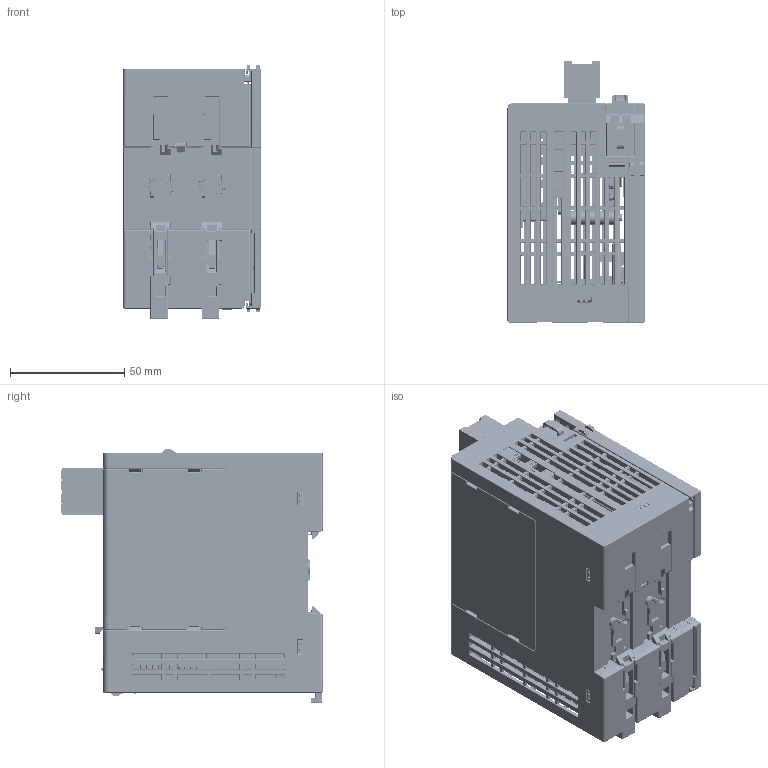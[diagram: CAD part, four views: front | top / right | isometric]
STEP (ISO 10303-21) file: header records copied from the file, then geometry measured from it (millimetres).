
FILE_DESCRIPTION((''),'2;1');
FILE_NAME('TS630_ASM','2024-08-13T15:57:57',('Administrator'),(''),'CREO PARAMETRIC BY PTC INC, 2019080','CREO PARAMETRIC BY PTC INC, 2019080','');
FILE_SCHEMA(('CONFIG_CONTROL_DESIGN'));
Products named in the file (35): 80740462; 80880830; 40810245_ASM; 80740463; 80740378; 80880808; 2X9-0131; 80740372; PCB-TS88-ZKB; E-DSW6-100-100-A; E-SPSW3-100R; E-HEAD0106-RC; E-DIN0217-0_8MM-TM; E-USB0212-20-RM; E-HEAD0104-RB; E-DIN0204-5_08MM-4_2MM-RM; E-T14-MJC; 2X4PMT; 77559739; 2X25-DZG; PCB-TS88-ZKB_ASM; PCB-TS88-KZB; E-SD0702A; E-JK2-3_3X4-A; E-BAT2-R20MM-B; CXLJQ-Y-0722; 2X25-DZM; 89200106-N88; PCB-TS88-KZB_ASM; PCB-TS88_ASM; TS630-TIEMO; TEMO-2_1_1; TEMO1-H1; TM700-TIEMO01_ASM; TS630_ASM
Assembly tree (54 placements, depth 4):
  TS630_ASM
    40810245_ASM
      80740462
      80880830  x2
    80740463
    80740378
    80880808
    2X9-0131
    80740372
    PCB-TS88_ASM
      PCB-TS88-ZKB_ASM
        PCB-TS88-ZKB
        E-DSW6-100-100-A
        E-SPSW3-100R  x2
        E-HEAD0106-RC
        E-DIN0217-0_8MM-TM
        E-USB0212-20-RM
        E-HEAD0104-RB
        E-DIN0204-5_08MM-4_2MM-RM
        E-T14-MJC  x3
        2X4PMT
        77559739
        2X25-DZG
      PCB-TS88-KZB_ASM
        PCB-TS88-KZB
        E-SD0702A  x16
        E-JK2-3_3X4-A
        E-BAT2-R20MM-B
        CXLJQ-Y-0722
        2X25-DZM
        89200106-N88
    89200106-N88
    TS630-TIEMO
    TM700-TIEMO01_ASM
      TEMO-2_1_1
      TEMO1-H1
Bounding box: 60 x 114.26 x 111 mm (x, y, z)
Volume: 177091.9 mm3; surface area: 213334.3 mm2
Topology: 85 solids, 122 shells, 16345 faces, 45199 edges, 29213 vertices
Faces by surface type: plane 11712, cylinder 3524, bspline 409, extrusion 241, torus 189, sphere 158, cone 112
Entity records: 478334 total; most frequent: CARTESIAN_POINT 116264, ORIENTED_EDGE 78786, DIRECTION 69198, EDGE_CURVE 39429, VECTOR 31402, LINE 31161, VERTEX_POINT 25520, AXIS2_PLACEMENT_3D 18898
